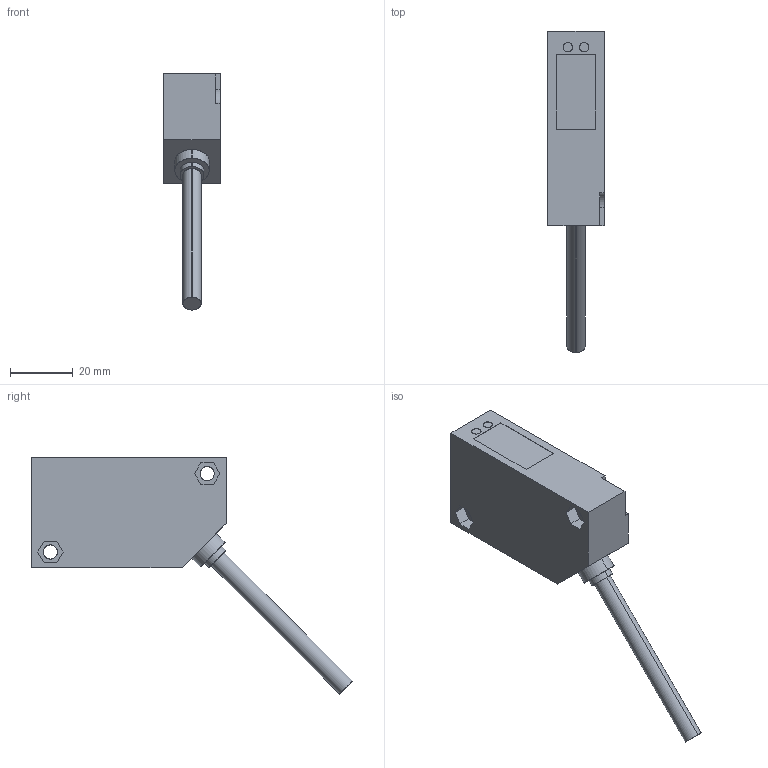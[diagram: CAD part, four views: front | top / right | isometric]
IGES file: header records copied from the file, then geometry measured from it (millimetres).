
Start section: SolidWorks IGES FILE using analytic representation for surfaces
Global section: file name: \\intra-srv04\開発データ\CAD_Data\CAD委員会\3D電子ｶﾀﾛｸﾞ\製品カタログ（新）\0_IGES\NX5-PRVM5A.IGS,41HSolidWorks 2004; native system: by SolidWorks Corporation; preprocessor: Version 5.3; author: yk0651; date: 050908.111226; units: millimetre
Bounding box: 18 x 102.31 x 75.31 mm (x, y, z)
Surface area: 9301.2 mm2 (no closed solid volume)
Topology: 0 solids, 0 shells, 75 faces, 874 edges, 874 vertices
Faces by surface type: bspline 57, revolution 18
